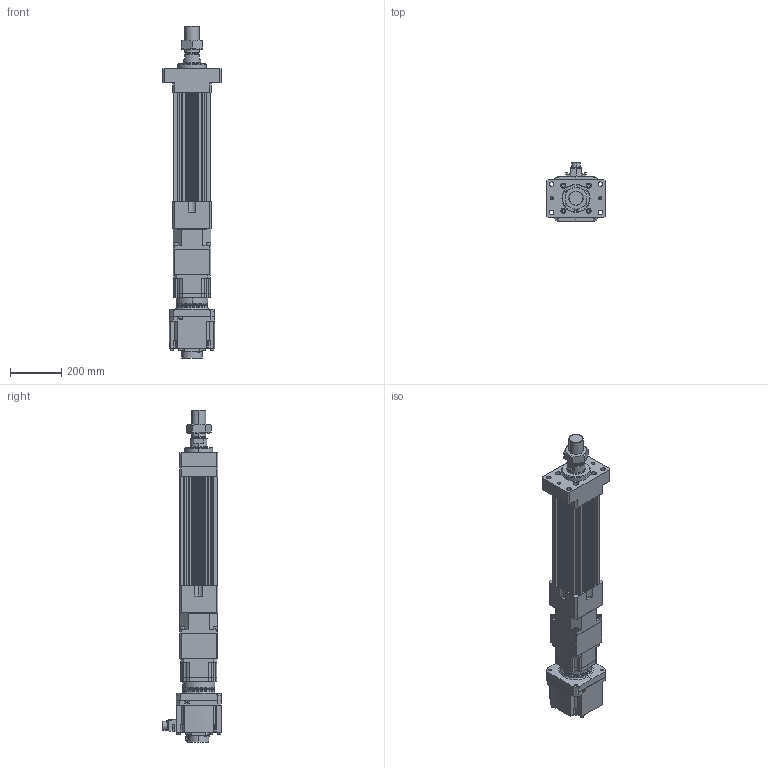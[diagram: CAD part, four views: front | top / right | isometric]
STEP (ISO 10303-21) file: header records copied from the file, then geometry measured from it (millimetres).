
FILE_DESCRIPTION (( 'STEP AP203' ), '1' );
FILE_NAME ('HES150NS(HS)-S150-W035G00-M-FM.STEP', '2023-02-01T04:17:41', ( 'tms' ), ( '' ), 'SwSTEP 2.0', 'SolidWorks 2013', '' );
FILE_SCHEMA (( 'CONFIG_CONTROL_DESIGN' ));
Length unit declared in the file: millimetre
Products named in the file (9): HES150NS(HS)-S150-W035G00-M-FM; AB142-003[HG-SR352]; P0403500801; HES150 ROD M ST150; AB1421; HES150-S150-G142-FM; HG-SR352; P1301500001; M56X2.0P
Assembly tree (8 placements, depth 3):
  HES150NS(HS)-S150-W035G00-M-FM
    HES150-S150-G142-FM
    HES150 ROD M ST150
    M56X2.0P
    AB142-003[HG-SR352]
      AB1421
      P1301500001
      P0403500801
    HG-SR352
Bounding box: 230 x 228.85 x 1297.5 mm (x, y, z)
Volume: 15110536.9 mm3; surface area: 1560956.3 mm2
Topology: 5 solids, 23 shells, 1508 faces, 3908 edges, 2538 vertices
Faces by surface type: cylinder 687, plane 587, cone 152, bspline 76, torus 6
Entity records: 55082 total; most frequent: CARTESIAN_POINT 16753, DIRECTION 8014, ORIENTED_EDGE 7718, EDGE_CURVE 3881, AXIS2_PLACEMENT_3D 3024, VERTEX_POINT 2538, VECTOR 1966, LINE 1966
